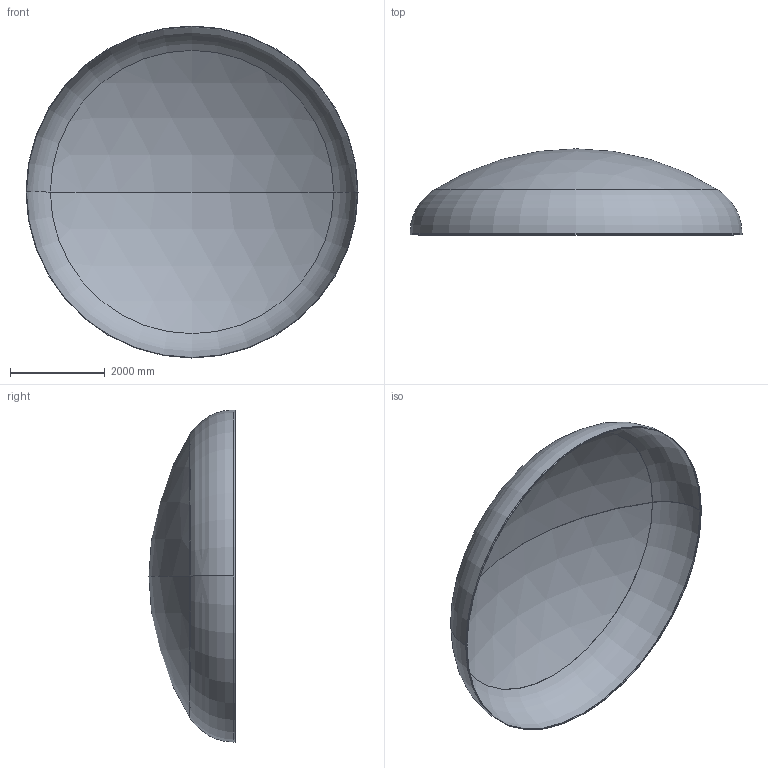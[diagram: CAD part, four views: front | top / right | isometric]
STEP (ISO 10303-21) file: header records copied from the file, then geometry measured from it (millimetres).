
FILE_DESCRIPTION (( 'STEP AP203' ), '1' );
FILE_NAME ('DIN 28013 Korbbogenform_-_Boden DIN 28013 - 7000 x 30 - I - s=9.step', '2016-07-04T10:44:54', ( '' ), ( '' ), 'SwSTEP 2.0', 'SolidWorks 2013', '' );
FILE_SCHEMA (( 'CONFIG_CONTROL_DESIGN' ));
Length unit declared in the file: millimetre
Products named in the file (1): DIN 28013 Korbbogenform_-_Boden DIN 28013 - 7000 x 30 - I - s=9
Bounding box: 7000 x 1815.72 x 7000 mm (x, y, z)
Volume: 485043871.6 mm3; surface area: 107985317.6 mm2
Topology: 1 solids, 1 shells, 13 faces, 24 edges, 14 vertices
Faces by surface type: torus 4, cylinder 4, sphere 4, plane 1
Entity records: 407 total; most frequent: DIRECTION 72, CARTESIAN_POINT 52, ORIENTED_EDGE 48, AXIS2_PLACEMENT_3D 34, EDGE_CURVE 24, CIRCLE 20, EDGE_LOOP 14, VERTEX_POINT 14
